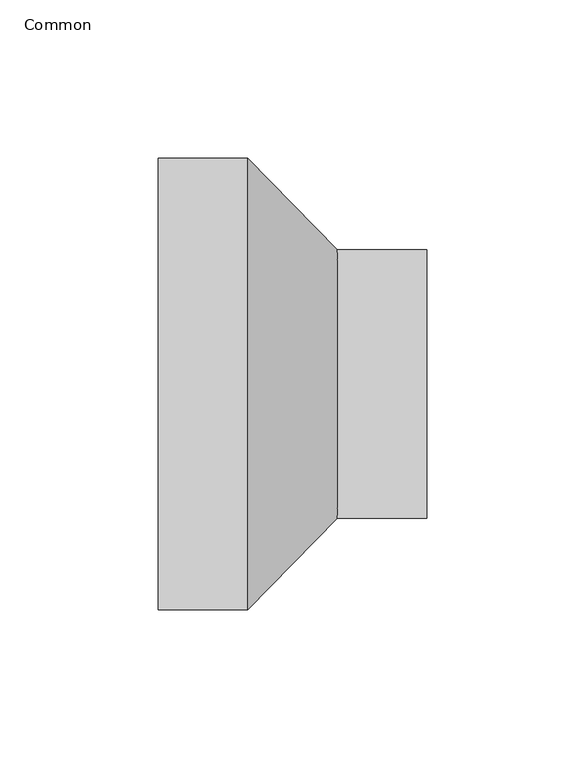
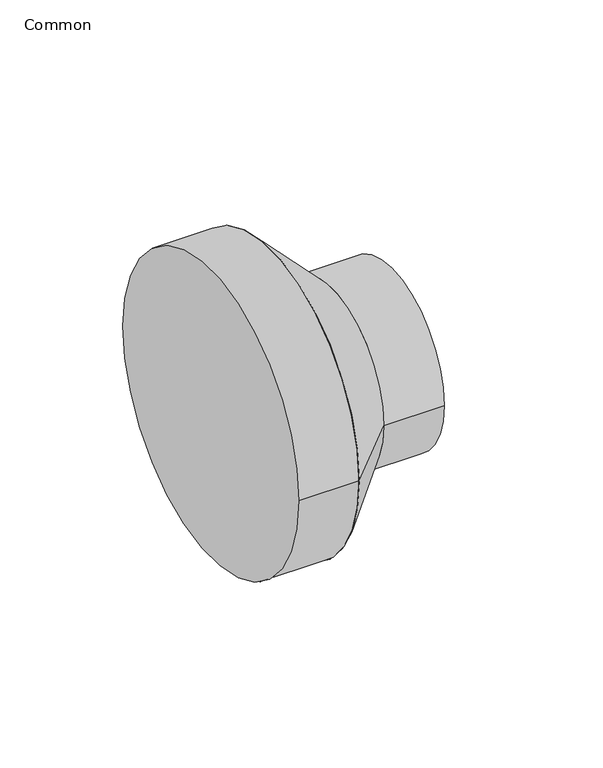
"""IFC4 building model written with IfcOpenShell, lengths in millimetres: pipe fitting geometry, 041_レジューサ : Common."""

from ifc_helpers import new_model, si_unit, point, frame, origin, origin_2d, place, context, project, spatial, polyline, circle_curve, trimmed, segment, composite_curve, outline, extrude, source, transform, mapped, element, save
from ifc_brep_helpers import plane_surface, revolved_surface, advanced_brep


def common_ca5108ef(model_context):
    return source(origin(), model_context, "Body", "SolidModel", [
        advanced_brep(
        [(56.6666667, -42.5, 0.0), (56.6666667, 42.5, 0.0), (28.3333333, -71.5, 0.0), (28.3333333, 71.5, 0.0)],
        [
            (0, 1, circle_curve(frame((56.6666667, 0.0, 0.0), z_axis=(1.0, 0.0, 0.0), x_axis=(0.0, -1.0, 0.0)), 42.5)),
            (1, 0, circle_curve(frame((56.6666667, 0.0, 0.0), z_axis=(1.0, 0.0, 0.0), x_axis=(0.0, 1.0, 0.0)), 42.5)),
            (2, 3, circle_curve(frame((28.3333333, 0.0, 0.0), z_axis=(-1.0, 0.0, 0.0), x_axis=(0.0, 1.0, 0.0)), 71.5)),
            (3, 2, circle_curve(frame((28.3333333, 0.0, 0.0), z_axis=(-1.0, 0.0, 0.0), x_axis=(0.0, -1.0, 0.0)), 71.5)),
            (3, 1),
            (0, 2),
        ],
        [
            plane_surface(frame((56.6666667, 0.0, 0.0), z_axis=(1.0, 0.0, 0.0), x_axis=(0.0, 0.0, -1.0))),
            plane_surface(frame((28.3333333, 0.0, 0.0), z_axis=(-1.0, 0.0, 0.0), x_axis=(0.0, 0.0, -1.0))),
            revolved_surface(polyline([(56.6666667, -42.499999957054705, 0.0), (28.333333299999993, -71.5, 0.0)]), (98.1896552, 0.0, 0.0), (-1.0, 0.0, 0.0)),
            revolved_surface(polyline([(56.6666667, 42.499999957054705, 0.0), (28.333333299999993, 71.5, 0.0)]), (98.1896552, 0.0, 0.0), (-1.0, 0.0, 0.0)),
        ],
        [
            (0, [[1, 2]]),
            (1, [[3, 4]]),
            (2, [[-4, 5, -1, 6]]),
            (3, [[-3, -6, -2, -5]]),
        ],
    ),
        extrude(outline(composite_curve([segment(trimmed(circle_curve(origin_2d(), 42.5), [point((-42.5, 0.0))], [point((42.5, 0.0))], False, "CARTESIAN"), True, "CONTINUOUS"), segment(trimmed(circle_curve(origin_2d(), 42.5), [point((42.5, 0.0))], [point((-42.5, 0.0))], False, "CARTESIAN"), True, "CONTINUOUS")], self_intersect=False)), frame((56.6666667, 0.0, 0.0), z_axis=(1.0, 0.0, 0.0), x_axis=(0.0, 1.0, 0.0)), (0.0, 0.0, 1.0), 28.3333333),
        extrude(outline(composite_curve([segment(trimmed(circle_curve(origin_2d(), 71.5), [point((-71.5, 0.0))], [point((71.5, 0.0))], False, "CARTESIAN"), True, "CONTINUOUS"), segment(trimmed(circle_curve(origin_2d(), 71.5), [point((71.5, 0.0))], [point((-71.5, 0.0))], False, "CARTESIAN"), True, "CONTINUOUS")], self_intersect=False)), frame((0.0, 0.0, 0.0), z_axis=(1.0, 0.0, 0.0), x_axis=(0.0, 1.0, 0.0)), (0.0, 0.0, 1.0), 28.3333333),
    ])


if __name__ == "__main__":
    model = new_model("IFC4")
    model_context = context("Model", 3, world=origin())
    ifc_project = project(units=[si_unit("LENGTHUNIT", "METRE", prefix="MILLI")], contexts=[model_context])
    site = spatial("IfcSite", under=ifc_project)
    building = spatial("IfcBuilding", under=site)
    placement = place(None, origin())
    common_shape = common_ca5108ef(model_context)
    element("IfcPipeFitting", 1, ObjectType="041_レジューサ : Common", at=placement, inside=building, context=model_context, shape_type="MappedRepresentation", body=[
        mapped(common_shape, transform((0.0, 0.0, 0.0), x_axis=(1.0, 0.0, 0.0), y_axis=(0.0, 1.0, 0.0), z_axis=(0.0, 0.0, 1.0))),
    ])
    save(model, "model.ifc")
